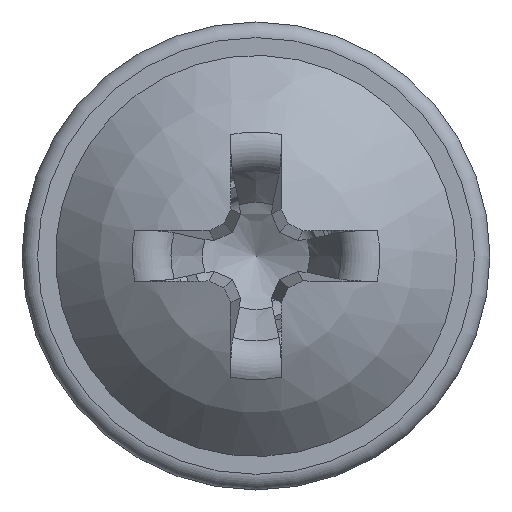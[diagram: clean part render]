
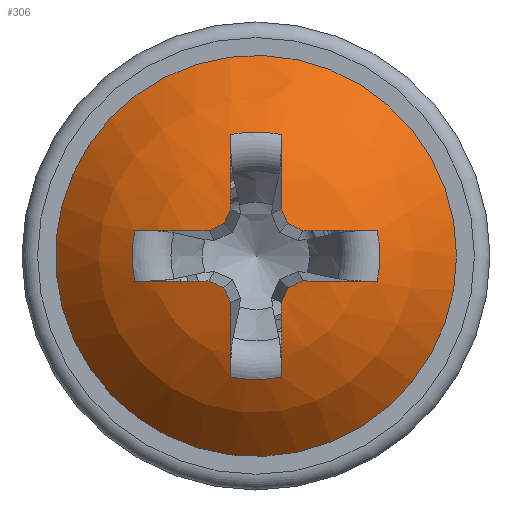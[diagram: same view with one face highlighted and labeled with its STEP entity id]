
A CAD part, top view. The second image highlights one B-rep face of the part: STEP entity #306.
In plain terms, the highlighted spherical face has radius 5.423 mm.
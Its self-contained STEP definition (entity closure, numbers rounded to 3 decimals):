
#267=SPHERICAL_SURFACE('',#1693,5.423);
#278=FACE_BOUND('',#506,.T.);
#279=FACE_BOUND('',#507,.T.);
#306=ADVANCED_FACE('',(#278,#279),#267,.T.);
#506=EDGE_LOOP('',(#708));
#507=EDGE_LOOP('',(#709,#710,#711,#712,#713,#714,#715,#716,#717,#718,#719,
#720,#721,#722,#723,#724,#725,#726,#727,#728));
#618=CIRCLE('',#1672,4.286);
#619=CIRCLE('',#1673,5.423);
#620=CIRCLE('',#1674,2.647);
#621=CIRCLE('',#1675,5.423);
#622=CIRCLE('',#1676,5.41);
#623=CIRCLE('',#1677,5.41);
#624=CIRCLE('',#1678,5.423);
#625=CIRCLE('',#1679,2.647);
#626=CIRCLE('',#1680,5.423);
#627=CIRCLE('',#1681,5.41);
#628=CIRCLE('',#1682,5.41);
#629=CIRCLE('',#1683,5.423);
#630=CIRCLE('',#1684,2.647);
#631=CIRCLE('',#1685,5.423);
#632=CIRCLE('',#1686,5.41);
#633=CIRCLE('',#1687,5.41);
#634=CIRCLE('',#1688,5.423);
#635=CIRCLE('',#1689,2.647);
#636=CIRCLE('',#1690,5.423);
#637=CIRCLE('',#1691,5.41);
#638=CIRCLE('',#1692,5.41);
#708=ORIENTED_EDGE('',*,*,#1344,.T.);
#709=ORIENTED_EDGE('',*,*,#1345,.F.);
#710=ORIENTED_EDGE('',*,*,#1346,.T.);
#711=ORIENTED_EDGE('',*,*,#1347,.F.);
#712=ORIENTED_EDGE('',*,*,#1348,.F.);
#713=ORIENTED_EDGE('',*,*,#1349,.F.);
#714=ORIENTED_EDGE('',*,*,#1350,.F.);
#715=ORIENTED_EDGE('',*,*,#1351,.T.);
#716=ORIENTED_EDGE('',*,*,#1352,.F.);
#717=ORIENTED_EDGE('',*,*,#1353,.F.);
#718=ORIENTED_EDGE('',*,*,#1354,.F.);
#719=ORIENTED_EDGE('',*,*,#1355,.F.);
#720=ORIENTED_EDGE('',*,*,#1356,.T.);
#721=ORIENTED_EDGE('',*,*,#1357,.F.);
#722=ORIENTED_EDGE('',*,*,#1358,.F.);
#723=ORIENTED_EDGE('',*,*,#1359,.F.);
#724=ORIENTED_EDGE('',*,*,#1360,.F.);
#725=ORIENTED_EDGE('',*,*,#1361,.T.);
#726=ORIENTED_EDGE('',*,*,#1362,.F.);
#727=ORIENTED_EDGE('',*,*,#1363,.F.);
#728=ORIENTED_EDGE('',*,*,#1364,.F.);
#1190=VERTEX_POINT('',#4374);
#1191=VERTEX_POINT('',#4376);
#1192=VERTEX_POINT('',#4377);
#1193=VERTEX_POINT('',#4379);
#1194=VERTEX_POINT('',#4381);
#1195=VERTEX_POINT('',#4383);
#1196=VERTEX_POINT('',#4385);
#1197=VERTEX_POINT('',#4387);
#1198=VERTEX_POINT('',#4389);
#1199=VERTEX_POINT('',#4391);
#1200=VERTEX_POINT('',#4393);
#1201=VERTEX_POINT('',#4395);
#1202=VERTEX_POINT('',#4397);
#1203=VERTEX_POINT('',#4399);
#1204=VERTEX_POINT('',#4401);
#1205=VERTEX_POINT('',#4403);
#1206=VERTEX_POINT('',#4405);
#1207=VERTEX_POINT('',#4407);
#1208=VERTEX_POINT('',#4409);
#1209=VERTEX_POINT('',#4411);
#1210=VERTEX_POINT('',#4413);
#1344=EDGE_CURVE('',#1190,#1190,#618,.T.);
#1345=EDGE_CURVE('',#1191,#1192,#619,.T.);
#1346=EDGE_CURVE('',#1191,#1193,#620,.T.);
#1347=EDGE_CURVE('',#1194,#1193,#621,.T.);
#1348=EDGE_CURVE('',#1195,#1194,#622,.T.);
#1349=EDGE_CURVE('',#1196,#1195,#623,.T.);
#1350=EDGE_CURVE('',#1197,#1196,#624,.T.);
#1351=EDGE_CURVE('',#1197,#1198,#625,.T.);
#1352=EDGE_CURVE('',#1199,#1198,#626,.T.);
#1353=EDGE_CURVE('',#1200,#1199,#627,.T.);
#1354=EDGE_CURVE('',#1201,#1200,#628,.T.);
#1355=EDGE_CURVE('',#1202,#1201,#629,.T.);
#1356=EDGE_CURVE('',#1202,#1203,#630,.T.);
#1357=EDGE_CURVE('',#1204,#1203,#631,.T.);
#1358=EDGE_CURVE('',#1205,#1204,#632,.T.);
#1359=EDGE_CURVE('',#1206,#1205,#633,.T.);
#1360=EDGE_CURVE('',#1207,#1206,#634,.T.);
#1361=EDGE_CURVE('',#1207,#1208,#635,.T.);
#1362=EDGE_CURVE('',#1209,#1208,#636,.T.);
#1363=EDGE_CURVE('',#1210,#1209,#637,.T.);
#1364=EDGE_CURVE('',#1192,#1210,#638,.T.);
#1672=AXIS2_PLACEMENT_3D('',#4373,#1759,#1760);
#1673=AXIS2_PLACEMENT_3D('',#4375,#1761,#1762);
#1674=AXIS2_PLACEMENT_3D('',#4378,#1763,#1764);
#1675=AXIS2_PLACEMENT_3D('',#4380,#1765,#1766);
#1676=AXIS2_PLACEMENT_3D('',#4382,#1767,#1768);
#1677=AXIS2_PLACEMENT_3D('',#4384,#1769,#1770);
#1678=AXIS2_PLACEMENT_3D('',#4386,#1771,#1772);
#1679=AXIS2_PLACEMENT_3D('',#4388,#1773,#1774);
#1680=AXIS2_PLACEMENT_3D('',#4390,#1775,#1776);
#1681=AXIS2_PLACEMENT_3D('',#4392,#1777,#1778);
#1682=AXIS2_PLACEMENT_3D('',#4394,#1779,#1780);
#1683=AXIS2_PLACEMENT_3D('',#4396,#1781,#1782);
#1684=AXIS2_PLACEMENT_3D('',#4398,#1783,#1784);
#1685=AXIS2_PLACEMENT_3D('',#4400,#1785,#1786);
#1686=AXIS2_PLACEMENT_3D('',#4402,#1787,#1788);
#1687=AXIS2_PLACEMENT_3D('',#4404,#1789,#1790);
#1688=AXIS2_PLACEMENT_3D('',#4406,#1791,#1792);
#1689=AXIS2_PLACEMENT_3D('',#4408,#1793,#1794);
#1690=AXIS2_PLACEMENT_3D('',#4410,#1795,#1796);
#1691=AXIS2_PLACEMENT_3D('',#4412,#1797,#1798);
#1692=AXIS2_PLACEMENT_3D('',#4414,#1799,#1800);
#1693=AXIS2_PLACEMENT_3D('',#4415,#1801,#1802);
#1759=DIRECTION('',(0.,0.,1.));
#1760=DIRECTION('',(1.,0.,0.));
#1761=DIRECTION('',(-0.035,0.996,0.087));
#1762=DIRECTION('',(0.,-0.087,0.996));
#1763=DIRECTION('',(0.,0.,-1.));
#1764=DIRECTION('',(-1.,0.,0.));
#1765=DIRECTION('',(-0.035,-0.996,0.087));
#1766=DIRECTION('',(0.,-0.087,-0.996));
#1767=DIRECTION('',(0.42,-0.902,0.1));
#1768=DIRECTION('',(0.906,0.423,0.));
#1769=DIRECTION('',(0.902,-0.42,0.1));
#1770=DIRECTION('',(0.423,0.906,0.));
#1771=DIRECTION('',(0.996,0.035,0.087));
#1772=DIRECTION('',(0.087,0.,-0.996));
#1773=DIRECTION('',(0.,0.,-1.));
#1774=DIRECTION('',(-1.,0.,0.));
#1775=DIRECTION('',(-0.996,0.035,0.087));
#1776=DIRECTION('',(0.087,0.,0.996));
#1777=DIRECTION('',(-0.902,-0.42,0.1));
#1778=DIRECTION('',(0.423,-0.906,0.));
#1779=DIRECTION('',(-0.42,-0.902,0.1));
#1780=DIRECTION('',(0.906,-0.423,0.));
#1781=DIRECTION('',(0.035,-0.996,0.087));
#1782=DIRECTION('',(0.,-0.087,-0.996));
#1783=DIRECTION('',(0.,0.,-1.));
#1784=DIRECTION('',(-1.,0.,0.));
#1785=DIRECTION('',(0.035,0.996,0.087));
#1786=DIRECTION('',(0.,-0.087,0.996));
#1787=DIRECTION('',(-0.42,0.902,0.1));
#1788=DIRECTION('',(-0.906,-0.423,0.));
#1789=DIRECTION('',(-0.902,0.42,0.1));
#1790=DIRECTION('',(-0.423,-0.906,0.));
#1791=DIRECTION('',(-0.996,-0.035,0.087));
#1792=DIRECTION('',(0.087,0.,0.996));
#1793=DIRECTION('',(0.,0.,-1.));
#1794=DIRECTION('',(-1.,0.,0.));
#1795=DIRECTION('',(0.996,-0.035,0.087));
#1796=DIRECTION('',(0.087,0.,-0.996));
#1797=DIRECTION('',(0.902,0.42,0.1));
#1798=DIRECTION('',(-0.423,0.906,0.));
#1799=DIRECTION('',(0.42,0.902,0.1));
#1800=DIRECTION('',(-0.906,0.423,0.));
#1801=DIRECTION('',(0.,0.,1.));
#1802=DIRECTION('',(0.,1.,0.));
#4373=CARTESIAN_POINT('',(0.,0.,1.1));
#4374=CARTESIAN_POINT('',(4.286,0.,1.1));
#4375=CARTESIAN_POINT('',(0.001,-0.038,-2.226));
#4376=CARTESIAN_POINT('',(-2.591,-0.543,2.51));
#4377=CARTESIAN_POINT('',(-1.,-0.537,3.08));
#4378=CARTESIAN_POINT('',(0.,0.,2.51));
#4379=CARTESIAN_POINT('',(-2.591,0.543,2.51));
#4380=CARTESIAN_POINT('',(0.001,0.038,-2.226));
#4381=CARTESIAN_POINT('',(-1.,0.537,3.08));
#4382=CARTESIAN_POINT('',(-0.157,0.337,-2.261));
#4383=CARTESIAN_POINT('',(-0.687,0.687,3.112));
#4384=CARTESIAN_POINT('',(-0.337,0.157,-2.261));
#4385=CARTESIAN_POINT('',(-0.537,1.,3.08));
#4386=CARTESIAN_POINT('',(-0.038,-0.001,-2.226));
#4387=CARTESIAN_POINT('',(-0.543,2.591,2.51));
#4388=CARTESIAN_POINT('',(0.,0.,2.51));
#4389=CARTESIAN_POINT('',(0.543,2.591,2.51));
#4390=CARTESIAN_POINT('',(0.038,-0.001,-2.226));
#4391=CARTESIAN_POINT('',(0.537,1.,3.08));
#4392=CARTESIAN_POINT('',(0.337,0.157,-2.261));
#4393=CARTESIAN_POINT('',(0.687,0.687,3.112));
#4394=CARTESIAN_POINT('',(0.157,0.337,-2.261));
#4395=CARTESIAN_POINT('',(1.,0.537,3.08));
#4396=CARTESIAN_POINT('',(-0.001,0.038,-2.226));
#4397=CARTESIAN_POINT('',(2.591,0.543,2.51));
#4398=CARTESIAN_POINT('',(0.,0.,2.51));
#4399=CARTESIAN_POINT('',(2.591,-0.543,2.51));
#4400=CARTESIAN_POINT('',(-0.001,-0.038,-2.226));
#4401=CARTESIAN_POINT('',(1.,-0.537,3.08));
#4402=CARTESIAN_POINT('',(0.157,-0.337,-2.261));
#4403=CARTESIAN_POINT('',(0.687,-0.687,3.112));
#4404=CARTESIAN_POINT('',(0.337,-0.157,-2.261));
#4405=CARTESIAN_POINT('',(0.537,-1.,3.08));
#4406=CARTESIAN_POINT('',(0.038,0.001,-2.226));
#4407=CARTESIAN_POINT('',(0.543,-2.591,2.51));
#4408=CARTESIAN_POINT('',(0.,0.,2.51));
#4409=CARTESIAN_POINT('',(-0.543,-2.591,2.51));
#4410=CARTESIAN_POINT('',(-0.038,0.001,-2.226));
#4411=CARTESIAN_POINT('',(-0.537,-1.,3.08));
#4412=CARTESIAN_POINT('',(-0.337,-0.157,-2.261));
#4413=CARTESIAN_POINT('',(-0.687,-0.687,3.112));
#4414=CARTESIAN_POINT('',(-0.157,-0.337,-2.261));
#4415=CARTESIAN_POINT('',(0.,0.,-2.223));
